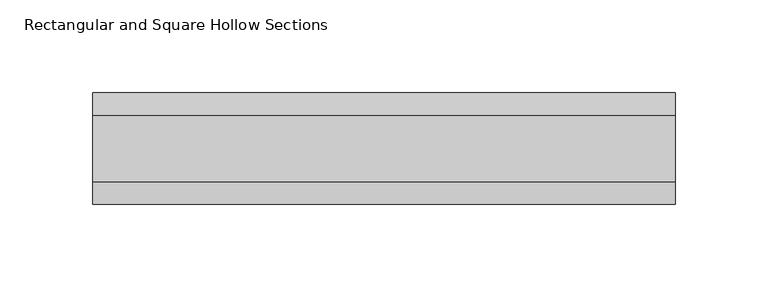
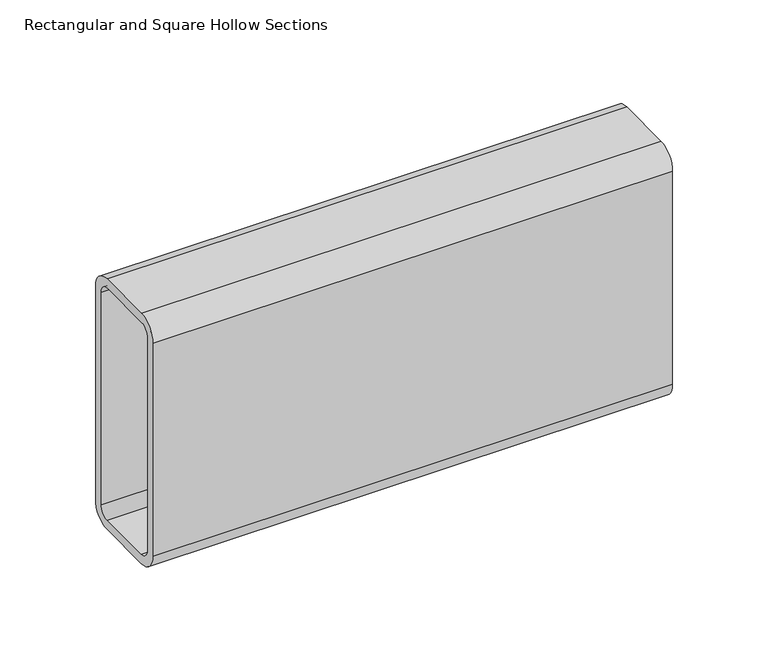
"""IFC4 building model written with IfcOpenShell, lengths in millimetres: beam geometry, Rectangular and Square Hollow Sections : TREC160x60x6."""

from ifc_helpers import new_model, si_unit, point, frame, frame_2d, origin, place, context, project, spatial, polyline, circle_curve, trimmed, segment, composite_curve, outline, extrude, source, transform, mapped, element, save


def rectangular_and_square_hollow_sections_b0745ad2(model_context):
    return source(origin(), model_context, "Body", "SweptSolid", [
        extrude(outline(composite_curve([segment(polyline([(30.0, 68.0), (30.0, -68.0)]), True, "CONTINUOUS"), segment(trimmed(circle_curve(frame_2d((18.0, -68.0)), 12.0), [point((30.0, -68.0))], [point((18.0, -80.0))], False, "CARTESIAN"), True, "CONTINUOUS"), segment(polyline([(18.0, -80.0), (-18.0, -80.0)]), True, "CONTINUOUS"), segment(trimmed(circle_curve(frame_2d((-18.0, -68.0)), 12.0), [point((-18.0, -80.0))], [point((-30.0, -68.0))], False, "CARTESIAN"), True, "CONTINUOUS"), segment(polyline([(-30.0, -68.0), (-30.0, 68.0)]), True, "CONTINUOUS"), segment(trimmed(circle_curve(frame_2d((-18.0, 68.0)), 12.0), [point((-30.0, 68.0))], [point((-18.0, 80.0))], False, "CARTESIAN"), True, "CONTINUOUS"), segment(polyline([(-18.0, 80.0), (18.0, 80.0)]), True, "CONTINUOUS"), segment(trimmed(circle_curve(frame_2d((18.0, 68.0)), 12.0), [point((18.0, 80.0))], [point((30.0, 68.0))], False, "CARTESIAN"), True, "CONTINUOUS")], self_intersect=False), holes=[composite_curve([segment(trimmed(circle_curve(frame_2d((-18.0, 68.0)), 6.0), [point((-18.0, 74.0))], [point((-24.0, 68.0))], True, "CARTESIAN"), True, "CONTINUOUS"), segment(polyline([(-24.0, 68.0), (-24.0, -68.0)]), True, "CONTINUOUS"), segment(trimmed(circle_curve(frame_2d((-18.0, -68.0)), 6.0), [point((-24.0, -68.0))], [point((-18.0, -74.0))], True, "CARTESIAN"), True, "CONTINUOUS"), segment(polyline([(-18.0, -74.0), (18.0, -74.0)]), True, "CONTINUOUS"), segment(trimmed(circle_curve(frame_2d((18.0, -68.0)), 6.0), [point((18.0, -74.0))], [point((24.0, -68.0))], True, "CARTESIAN"), True, "CONTINUOUS"), segment(polyline([(24.0, -68.0), (24.0, 68.0)]), True, "CONTINUOUS"), segment(trimmed(circle_curve(frame_2d((18.0, 68.0)), 6.0), [point((24.0, 68.0))], [point((18.0, 74.0))], True, "CARTESIAN"), True, "CONTINUOUS"), segment(polyline([(18.0, 74.0), (-18.0, 74.0)]), True, "CONTINUOUS")], self_intersect=False)]), frame((-150.5, 0.0, 0.0), z_axis=(1.0, 0.0, 0.0), x_axis=(0.0, 1.0, 0.0)), (0.0, 0.0, 1.0), 314.0),
    ])


if __name__ == "__main__":
    model = new_model("IFC4")
    model_context = context("Model", 3, world=origin())
    ifc_project = project(units=[si_unit("LENGTHUNIT", "METRE", prefix="MILLI")], contexts=[model_context])
    site = spatial("IfcSite", under=ifc_project)
    building = spatial("IfcBuilding", under=site)
    placement = place(None, origin())
    rectangular_and_square_hollow_sections_shape = rectangular_and_square_hollow_sections_b0745ad2(model_context)
    element("IfcBeam", 1, ObjectType="Rectangular and Square Hollow Sections : TREC160x60x6", at=placement, inside=building, context=model_context, shape_type="MappedRepresentation", body=[
        mapped(rectangular_and_square_hollow_sections_shape, transform((0.0, 0.0, 0.0), x_axis=(1.0, 0.0, 0.0), y_axis=(0.0, 1.0, 0.0), z_axis=(0.0, 0.0, 1.0))),
    ])
    save(model, "model.ifc")
